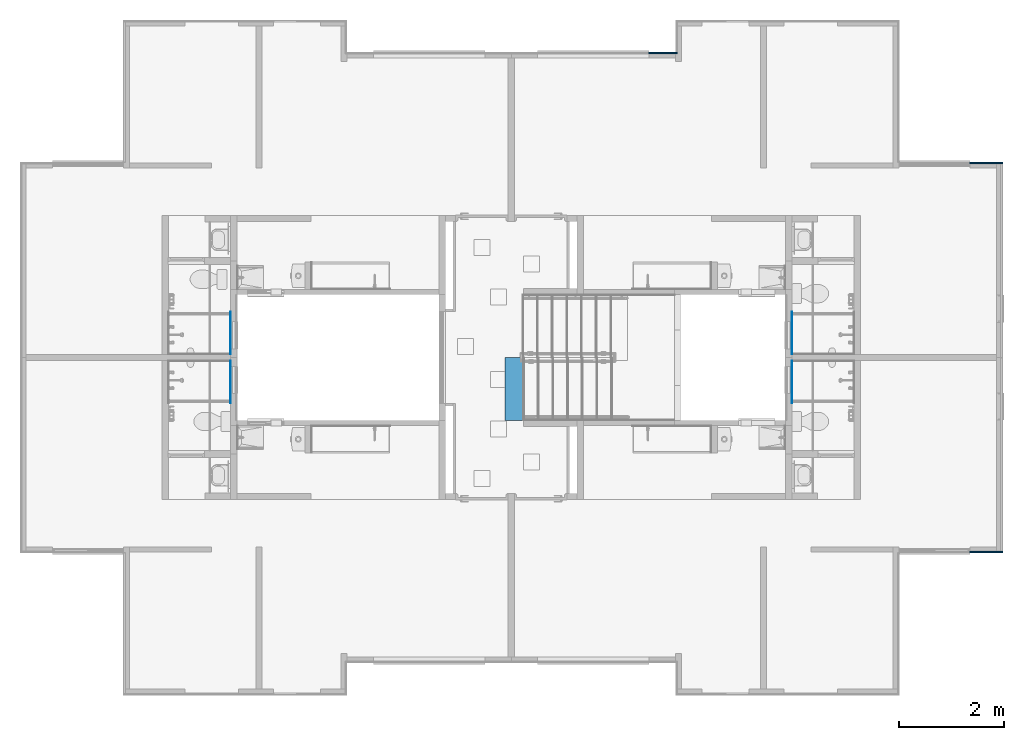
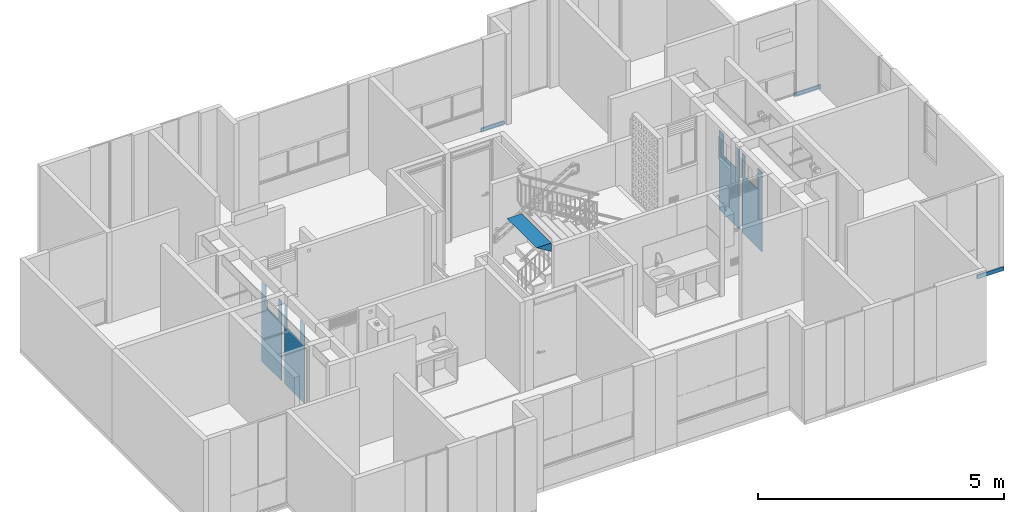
# One storey, part 28 of 48: 7 walls, 1 stair, 4 openings.
"""IFC4 building model written with IfcOpenShell, lengths in metres."""

from ifc_helpers import new_model, entity, si_unit, converted_unit, derived_unit, direction, frame, origin, place, context, subcontext, project, spatial, indexed_curve, outline, extrude, polygons, material, type_object, element, save


model = new_model("IFC4")

# Units and contexts
model_context = context("Model", 3, precision=1e-05, world=origin(), true_north=direction((6.123031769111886e-17, 1.0)))
body_context = subcontext(model_context, "Body", "Model", "MODEL_VIEW")
ifc_project = project(units=[si_unit("LENGTHUNIT", "METRE"), si_unit("AREAUNIT", "SQUARE_METRE"), si_unit("VOLUMEUNIT", "CUBIC_METRE"), converted_unit("PLANEANGLEUNIT", "DEGREE", entity("IfcRatioMeasure", 0.017453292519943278), si_unit("PLANEANGLEUNIT", "RADIAN"), dimensions=[0, 0, 0, 0, 0, 0, 0]), si_unit("MASSUNIT", "GRAM", prefix="KILO"), derived_unit("MASSDENSITYUNIT", [(si_unit("MASSUNIT", "GRAM", prefix="KILO"), 1), (si_unit("LENGTHUNIT", "METRE"), -3)]), derived_unit("IONCONCENTRATIONUNIT", [(si_unit("MASSUNIT", "GRAM", prefix="KILO"), 1), (si_unit("LENGTHUNIT", "METRE"), -3)]), derived_unit("MOMENTOFINERTIAUNIT", [(si_unit("LENGTHUNIT", "METRE"), 4)]), si_unit("TIMEUNIT", "SECOND"), si_unit("FREQUENCYUNIT", "HERTZ"), si_unit("THERMODYNAMICTEMPERATUREUNIT", "DEGREE_CELSIUS"), derived_unit("THERMALTRANSMITTANCEUNIT", [(si_unit("MASSUNIT", "GRAM", prefix="KILO"), 1), (si_unit("THERMODYNAMICTEMPERATUREUNIT", "KELVIN"), -1), (si_unit("TIMEUNIT", "SECOND"), -3)]), derived_unit("THERMALCONDUCTANCEUNIT", [(si_unit("MASSUNIT", "GRAM", prefix="KILO"), 1), (si_unit("THERMODYNAMICTEMPERATUREUNIT", "KELVIN"), -1), (si_unit("TIMEUNIT", "SECOND"), -3), (si_unit("LENGTHUNIT", "METRE"), 1)]), derived_unit("VOLUMETRICFLOWRATEUNIT", [(si_unit("LENGTHUNIT", "METRE"), 3), (si_unit("TIMEUNIT", "SECOND"), -1)]), derived_unit("MASSFLOWRATEUNIT", [(si_unit("MASSUNIT", "GRAM", prefix="KILO"), 1), (si_unit("TIMEUNIT", "SECOND"), -1)]), derived_unit("ROTATIONALFREQUENCYUNIT", [(si_unit("TIMEUNIT", "SECOND"), -1)]), si_unit("ELECTRICCURRENTUNIT", "AMPERE"), si_unit("ELECTRICVOLTAGEUNIT", "VOLT"), si_unit("POWERUNIT", "WATT"), si_unit("FORCEUNIT", "NEWTON", prefix="KILO"), si_unit("ILLUMINANCEUNIT", "LUX"), si_unit("LUMINOUSFLUXUNIT", "LUMEN"), si_unit("LUMINOUSINTENSITYUNIT", "CANDELA"), derived_unit("USERDEFINED", [(si_unit("MASSUNIT", "GRAM", prefix="KILO"), -1), (si_unit("LENGTHUNIT", "METRE"), -2), (si_unit("TIMEUNIT", "SECOND"), 3), (si_unit("LUMINOUSFLUXUNIT", "LUMEN"), 1)]), derived_unit("USERDEFINED", [(si_unit("MASSUNIT", "GRAM", prefix="KILO"), 1), (si_unit("TIMEUNIT", "SECOND"), -3), (si_unit("LENGTHUNIT", "METRE"), 3), (si_unit("ELECTRICCURRENTUNIT", "AMPERE"), -2)]), derived_unit("SOUNDPOWERUNIT", [(si_unit("MASSUNIT", "GRAM", prefix="KILO"), 1), (si_unit("TIMEUNIT", "SECOND"), -3), (si_unit("LENGTHUNIT", "METRE"), 2)]), derived_unit("SOUNDPRESSUREUNIT", [(si_unit("MASSUNIT", "GRAM", prefix="KILO"), 1), (si_unit("LENGTHUNIT", "METRE"), -1), (si_unit("TIMEUNIT", "SECOND"), -2)]), derived_unit("LINEARVELOCITYUNIT", [(si_unit("LENGTHUNIT", "METRE"), 1), (si_unit("TIMEUNIT", "SECOND"), -1)]), si_unit("PRESSUREUNIT", "PASCAL"), derived_unit("USERDEFINED", [(si_unit("MASSUNIT", "GRAM", prefix="KILO"), 1), (si_unit("LENGTHUNIT", "METRE"), -2), (si_unit("TIMEUNIT", "SECOND"), -2)]), derived_unit("LINEARFORCEUNIT", [(si_unit("MASSUNIT", "GRAM", prefix="KILO"), 1), (si_unit("TIMEUNIT", "SECOND"), -2)]), derived_unit("PLANARFORCEUNIT", [(si_unit("MASSUNIT", "GRAM", prefix="KILO"), 1), (si_unit("LENGTHUNIT", "METRE"), -1), (si_unit("TIMEUNIT", "SECOND"), -2)]), derived_unit("SPECIFICHEATCAPACITYUNIT", [(si_unit("THERMODYNAMICTEMPERATUREUNIT", "KELVIN"), -1), (si_unit("LENGTHUNIT", "METRE"), 2), (si_unit("TIMEUNIT", "SECOND"), -2)]), derived_unit("HEATINGVALUEUNIT", [(si_unit("LENGTHUNIT", "METRE"), 2), (si_unit("TIMEUNIT", "SECOND"), -2)]), derived_unit("VAPORPERMEABILITYUNIT", [(si_unit("LENGTHUNIT", "METRE"), -1), (si_unit("TIMEUNIT", "SECOND"), 1)]), derived_unit("DYNAMICVISCOSITYUNIT", [(si_unit("MASSUNIT", "GRAM", prefix="KILO"), 1), (si_unit("TIMEUNIT", "SECOND"), -1), (si_unit("LENGTHUNIT", "METRE"), -1)]), derived_unit("THERMALEXPANSIONCOEFFICIENTUNIT", [(si_unit("THERMODYNAMICTEMPERATUREUNIT", "KELVIN"), -1)]), derived_unit("MODULUSOFELASTICITYUNIT", [(si_unit("MASSUNIT", "GRAM", prefix="KILO"), 1), (si_unit("LENGTHUNIT", "METRE"), -1), (si_unit("TIMEUNIT", "SECOND"), -2)]), derived_unit("ISOTHERMALMOISTURECAPACITYUNIT", [(si_unit("LENGTHUNIT", "METRE"), 3), (si_unit("MASSUNIT", "GRAM", prefix="KILO"), -1)]), derived_unit("MOISTUREDIFFUSIVITYUNIT", [(si_unit("TIMEUNIT", "SECOND"), -1), (si_unit("LENGTHUNIT", "METRE"), 2)])], contexts=[model_context])

# Site, building, storey
site_placement = place(None, origin())
site = spatial("IfcSite", under=ifc_project, at=site_placement, Name="Default", CompositionType="ELEMENT")
building_placement = place(site_placement, origin())
building = spatial("IfcBuilding", under=site, at=building_placement, CompositionType="ELEMENT")
storey_placement = place(building_placement, frame((0.0, 0.0, 4.700000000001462)))
storey = spatial("IfcBuildingStorey", under=building, at=storey_placement, Name="Nivel 3", CompositionType="ELEMENT", Elevation=4.700000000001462)

# Wall, opening
ifc_material_1 = material(Name="Ceramica 0.25m x 0.35m", Category="Materials")
wall_type_1 = type_object("IfcWallType", Name="Basic Wall:C2010 - 0.25 x 0.35 - Enchape cerámico", PredefinedType="STANDARD")
wall_1_placement = place(storey_placement, frame((3.9574999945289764, -6.365000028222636, 0.029999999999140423), z_axis=(0.0, 0.0, 1.0), x_axis=(0.0, 1.0, 0.0)))
wall_1 = element("IfcWall", 1, at=wall_1_placement, inside=storey, type_object=wall_type_1, material=ifc_material_1, Name="Basic Wall:C2010 - 0.25 x 0.35 - Enchape cerámico", ObjectType="Basic Wall:C2010 - 0.25 x 0.35 - Enchape cerámico", PredefinedType="NOTDEFINED", context=body_context, shape_type="Tessellation", body=[
    polygons([(0.0, -0.0049999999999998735, 5.414335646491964e-16), (0.8099999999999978, -0.00499999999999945, 5.414335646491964e-16), (0.8099999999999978, -0.00499999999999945, 1.9700000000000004), (0.6309543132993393, -0.00500000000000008, 1.9700000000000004), (0.6309543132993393, -0.00500000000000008, 1.4500000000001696), (0.11095431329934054, -0.00499999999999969, 1.4500000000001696), (0.11095431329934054, -0.00499999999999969, 1.9700000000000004), (0.0, -0.0049999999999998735, 1.9700000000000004), (0.0, 0.005000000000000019, 5.414335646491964e-16), (0.0, 0.005000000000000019, 1.9700000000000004), (0.009999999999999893, 0.005000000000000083, 1.9699999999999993), (0.11095431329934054, 0.005000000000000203, 1.9700000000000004), (0.11095431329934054, 0.005000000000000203, 1.4500000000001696), (0.6309543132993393, 0.004999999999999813, 1.4500000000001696), (0.6309543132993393, 0.004999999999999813, 1.9700000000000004), (0.8099999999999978, 0.004999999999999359, 1.9700000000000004), (0.8099999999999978, 0.004999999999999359, 5.414335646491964e-16), (0.009999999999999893, 0.005000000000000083, 5.414335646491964e-16)], [[[1, 2, 3, 4, 5, 6, 7, 8]], [[9, 10, 11, 12, 13, 14, 15, 16, 17, 18]], [[2, 1, 9, 18, 17]], [[3, 2, 17, 16]], [[4, 3, 16, 15]], [[5, 4, 15, 14]], [[6, 5, 14, 13]], [[7, 6, 13, 12]], [[8, 7, 12, 11, 10]], [[1, 8, 10, 9]]], closed=True),
])
opening_1_placement = place(wall_1_placement, origin())
element("IfcOpeningElement", 2, at=opening_1_placement, cuts=wall_1, Name="Basic Wall:C2010 - 0.25 x 0.35 - Enchape cerámico", PredefinedType="OPENING", context=body_context, shape_type="SweptSolid", body=[
    extrude(outline(indexed_curve([(-0.2599999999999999, -0.25999999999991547), (0.25999999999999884, -0.25999999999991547), (0.2599999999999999, 0.25999999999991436), (-0.25999999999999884, 0.25999999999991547), (-0.2599999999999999, -0.25999999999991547)], self_intersect=False)), frame((0.3709543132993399, 0.004999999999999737, 1.7100000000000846), z_axis=(0.0, -1.0, 0.0), x_axis=(-1.0, 0.0, 0.0)), (0.0, 0.0, 1.0), 0.01),
])

wall_2_placement = place(storey_placement, frame((3.957499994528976, -6.485000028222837, 0.029999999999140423), z_axis=(0.0, 0.0, 1.0), x_axis=(0.0, -1.0, 0.0)))
wall_2 = element("IfcWall", 3, at=wall_2_placement, inside=storey, type_object=wall_type_1, material=ifc_material_1, Name="Basic Wall:C2010 - 0.25 x 0.35 - Enchape cerámico", ObjectType="Basic Wall:C2010 - 0.25 x 0.35 - Enchape cerámico", PredefinedType="NOTDEFINED", context=body_context, shape_type="Tessellation", body=[
    polygons([(0.0, -0.0049999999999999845, 5.414335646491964e-16), (0.009999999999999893, -0.004999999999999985, 0.0), (0.8099999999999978, -0.005000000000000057, 5.414335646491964e-16), (0.8099999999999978, -0.005000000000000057, 1.9700000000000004), (0.6309543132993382, -0.00500000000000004, 1.9700000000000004), (0.6309543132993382, -0.00500000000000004, 1.4500000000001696), (0.11095431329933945, -0.004999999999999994, 1.4500000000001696), (0.11095431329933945, -0.004999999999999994, 1.9700000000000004), (0.009999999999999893, -0.004999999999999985, 1.9699999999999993), (0.0, -0.0049999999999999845, 1.9700000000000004), (0.0, 0.004999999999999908, 5.414335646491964e-16), (0.0, 0.004999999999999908, 1.9700000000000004), (0.11095431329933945, 0.004999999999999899, 1.9700000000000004), (0.11095431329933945, 0.004999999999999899, 1.4500000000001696), (0.6309543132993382, 0.004999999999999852, 1.4500000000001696), (0.6309543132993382, 0.004999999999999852, 1.9700000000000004), (0.8099999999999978, 0.004999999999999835, 1.9700000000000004), (0.8099999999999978, 0.004999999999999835, 5.414335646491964e-16)], [[[1, 2, 3, 4, 5, 6, 7, 8, 9, 10]], [[11, 12, 13, 14, 15, 16, 17, 18]], [[3, 2, 1, 11, 18]], [[4, 3, 18, 17]], [[5, 4, 17, 16]], [[6, 5, 16, 15]], [[7, 6, 15, 14]], [[8, 7, 14, 13]], [[10, 9, 8, 13, 12]], [[1, 10, 12, 11]]], closed=True),
])
opening_2_placement = place(wall_2_placement, origin())
element("IfcOpeningElement", 4, at=opening_2_placement, cuts=wall_2, Name="Basic Wall:C2010 - 0.25 x 0.35 - Enchape cerámico", PredefinedType="OPENING", context=body_context, shape_type="SweptSolid", body=[
    extrude(outline(indexed_curve([(-0.2599999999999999, -0.25999999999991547), (0.25999999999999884, -0.25999999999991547), (0.2599999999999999, 0.25999999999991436), (-0.25999999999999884, 0.25999999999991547), (-0.2599999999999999, -0.25999999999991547)], self_intersect=False)), frame((0.3709543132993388, 0.004999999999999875, 1.7100000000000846), z_axis=(0.0, -1.0, 0.0), x_axis=(-1.0, 0.0, 0.0)), (0.0, 0.0, 1.0), 0.01),
])

wall_3_placement = place(storey_placement, frame((14.687500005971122, -6.3650000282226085, 0.029999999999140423), z_axis=(0.0, 0.0, 1.0), x_axis=(0.0, 1.0, 0.0)))
wall_3 = element("IfcWall", 5, at=wall_3_placement, inside=storey, type_object=wall_type_1, material=ifc_material_1, Name="Basic Wall:C2010 - 0.25 x 0.35 - Enchape cerámico", ObjectType="Basic Wall:C2010 - 0.25 x 0.35 - Enchape cerámico", PredefinedType="NOTDEFINED", context=body_context, shape_type="Tessellation", body=[
    polygons([(0.0, -0.004999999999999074, 5.414335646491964e-16), (0.009999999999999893, -0.004999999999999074, 5.414335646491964e-16), (0.8099999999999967, -0.004999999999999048, 5.414335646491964e-16), (0.8099999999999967, -0.004999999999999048, 1.9700000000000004), (0.6309543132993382, -0.004999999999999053, 1.9700000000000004), (0.6309543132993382, -0.004999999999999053, 1.4500000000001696), (0.11095431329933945, -0.00499999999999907, 1.4500000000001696), (0.11095431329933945, -0.00499999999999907, 1.9700000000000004), (0.009999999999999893, -0.004999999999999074, 1.9699999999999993), (0.0, -0.004999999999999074, 1.9700000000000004), (0.0, 0.004999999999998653, 5.414335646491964e-16), (0.0, 0.004999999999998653, 1.9700000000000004), (0.11095431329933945, 0.004999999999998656, 1.9700000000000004), (0.11095431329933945, 0.004999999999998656, 1.4500000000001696), (0.6309543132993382, 0.004999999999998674, 1.4500000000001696), (0.6309543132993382, 0.004999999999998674, 1.9700000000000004), (0.8099999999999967, 0.004999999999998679, 1.9700000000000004), (0.8099999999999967, 0.004999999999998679, 5.414335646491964e-16)], [[[1, 2, 3, 4, 5, 6, 7, 8, 9, 10]], [[11, 12, 13, 14, 15, 16, 17, 18]], [[3, 2, 1, 11, 18]], [[4, 3, 18, 17]], [[5, 4, 17, 16]], [[6, 5, 16, 15]], [[7, 6, 15, 14]], [[8, 7, 14, 13]], [[10, 9, 8, 13, 12]], [[1, 10, 12, 11]]], closed=True),
])
opening_3_placement = place(wall_3_placement, origin())
element("IfcOpeningElement", 6, at=opening_3_placement, cuts=wall_3, Name="Basic Wall:C2010 - 0.25 x 0.35 - Enchape cerámico", PredefinedType="OPENING", context=body_context, shape_type="SweptSolid", body=[
    extrude(outline(indexed_curve([(-0.2599999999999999, -0.25999999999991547), (0.25999999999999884, -0.25999999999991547), (0.2599999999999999, 0.25999999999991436), (-0.25999999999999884, 0.25999999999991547), (-0.2599999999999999, -0.25999999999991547)], self_intersect=False)), frame((0.3709543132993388, 0.00500000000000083, 1.7100000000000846), z_axis=(0.0, -1.0, 0.0), x_axis=(-1.0, 0.0, 0.0)), (0.0, 0.0, 1.0), 0.01),
])

wall_4_placement = place(storey_placement, frame((14.687500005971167, -6.485000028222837, 0.029999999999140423), z_axis=(0.0, 0.0, 1.0), x_axis=(0.0, -1.0, 0.0)))
wall_4 = element("IfcWall", 7, at=wall_4_placement, inside=storey, type_object=wall_type_1, material=ifc_material_1, Name="Basic Wall:C2010 - 0.25 x 0.35 - Enchape cerámico", ObjectType="Basic Wall:C2010 - 0.25 x 0.35 - Enchape cerámico", PredefinedType="NOTDEFINED", context=body_context, shape_type="Tessellation", body=[
    polygons([(0.0, -0.004999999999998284, 5.414335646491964e-16), (0.8099999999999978, -0.004999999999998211, 5.414335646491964e-16), (0.8099999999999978, -0.004999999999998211, 1.9700000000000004), (0.6309543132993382, -0.004999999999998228, 1.9700000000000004), (0.6309543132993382, -0.004999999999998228, 1.4500000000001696), (0.11095431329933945, -0.004999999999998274, 1.4500000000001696), (0.11095431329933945, -0.004999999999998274, 1.9700000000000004), (0.0, -0.004999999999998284, 1.9700000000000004), (0.0, 0.005000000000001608, 5.414335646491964e-16), (0.0, 0.005000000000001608, 1.9700000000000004), (0.009999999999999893, 0.00500000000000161, 1.9699999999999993), (0.11095431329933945, 0.005000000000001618, 1.9700000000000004), (0.11095431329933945, 0.005000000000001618, 1.4500000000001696), (0.6309543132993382, 0.005000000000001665, 1.4500000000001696), (0.6309543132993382, 0.005000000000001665, 1.9700000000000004), (0.8099999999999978, 0.005000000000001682, 1.9700000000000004), (0.8099999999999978, 0.005000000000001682, 5.414335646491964e-16), (0.009999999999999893, 0.00500000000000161, 5.414335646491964e-16)], [[[1, 2, 3, 4, 5, 6, 7, 8]], [[9, 10, 11, 12, 13, 14, 15, 16, 17, 18]], [[2, 1, 9, 18, 17]], [[3, 2, 17, 16]], [[4, 3, 16, 15]], [[5, 4, 15, 14]], [[6, 5, 14, 13]], [[7, 6, 13, 12]], [[8, 7, 12, 11, 10]], [[1, 8, 10, 9]]], closed=True),
])
opening_4_placement = place(wall_4_placement, origin())
element("IfcOpeningElement", 8, at=opening_4_placement, cuts=wall_4, Name="Basic Wall:C2010 - 0.25 x 0.35 - Enchape cerámico", PredefinedType="OPENING", context=body_context, shape_type="SweptSolid", body=[
    extrude(outline(indexed_curve([(-0.2599999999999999, -0.25999999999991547), (0.25999999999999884, -0.25999999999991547), (0.2599999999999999, 0.25999999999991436), (-0.25999999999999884, 0.25999999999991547), (-0.2599999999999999, -0.25999999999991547)], self_intersect=False)), frame((0.3709543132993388, 0.005000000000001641, 1.7100000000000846), z_axis=(0.0, -1.0, 0.0), x_axis=(-1.0, 0.0, 0.0)), (0.0, 0.0, 1.0), 0.01),
])

# Walls
ifc_material_2 = material(Name="LADRILLO CLARO", Category="Materials")
wall_type_2 = type_object("IfcWallType", Name="Basic Wall:B2010 - 0.03m - ME enchape  no estructural - Ladrillo", PredefinedType="STANDARD")
wall_5_placement = place(storey_placement, frame((18.702500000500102, -2.710000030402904, -0.1000000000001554), z_axis=(0.0, 0.0, 1.0), x_axis=(-1.0, 0.0, 0.0)))
element("IfcWall", 9, at=wall_5_placement, inside=storey, type_object=wall_type_2, material=ifc_material_2, Name="Basic Wall:B2010 - 0.03m - ME enchape  no estructural - Ladrillo", ObjectType="Basic Wall:B2010 - 0.03m - ME enchape  no estructural - Ladrillo", PredefinedType="NOTDEFINED", context=body_context, shape_type="SweptSolid", body=[
    extrude(outline(indexed_curve([(0.624999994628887, 0.014999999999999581), (3.050576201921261e-16, 0.014999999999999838), (-3.050576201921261e-16, -0.014999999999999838), (0.6249999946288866, -0.015000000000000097), (0.624999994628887, 0.014999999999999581)], self_intersect=False)), origin(), (0.0, 0.0, 1.0), 0.1),
])
wall_6_placement = place(storey_placement, frame((18.702500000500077, -10.140000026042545, -0.1000000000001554), z_axis=(0.0, 0.0, 1.0), x_axis=(-1.0, 0.0, 0.0)))
element("IfcWall", 10, at=wall_6_placement, inside=storey, type_object=wall_type_2, material=ifc_material_2, Name="Basic Wall:B2010 - 0.03m - ME enchape  no estructural - Ladrillo", ObjectType="Basic Wall:B2010 - 0.03m - ME enchape  no estructural - Ladrillo", PredefinedType="NOTDEFINED", context=body_context, shape_type="SweptSolid", body=[
    extrude(outline(indexed_curve([(0.6249999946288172, 0.015000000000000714), (-3.068945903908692e-16, 0.015000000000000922), (3.068945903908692e-16, -0.015000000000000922), (0.6249999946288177, -0.015000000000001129), (0.6249999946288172, 0.015000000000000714)], self_intersect=False)), origin(), (0.0, 0.0, 1.0), 0.1),
])
wall_7_placement = place(storey_placement, frame((11.952500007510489, -0.6100000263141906, -0.1000000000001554)))
element("IfcWall", 11, at=wall_7_placement, inside=storey, type_object=wall_type_2, material=ifc_material_2, Name="Basic Wall:B2010 - 0.03m - ME enchape  no estructural - Ladrillo", ObjectType="Basic Wall:B2010 - 0.03m - ME enchape  no estructural - Ladrillo", PredefinedType="NOTDEFINED", context=body_context, shape_type="SweptSolid", body=[
    extrude(outline(indexed_curve([(0.5400000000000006, 0.014999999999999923), (-4.746061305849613e-17, 0.014999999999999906), (4.7460613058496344e-17, -0.014999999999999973), (0.5400000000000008, -0.015000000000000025), (0.5400000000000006, 0.014999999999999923)], self_intersect=False)), origin(), (0.0, 0.0, 1.0), 0.1),
])

# Stair
ifc_material_3 = material(Name="Concreto (Aire)", Category="Materials")
stair_type = type_object("IfcStairType", Name="ESCALON3:ESCALON", PredefinedType="NOTDEFINED")
stair_placement = place(storey_placement, origin())
element("IfcStair", 12, at=stair_placement, inside=storey, type_object=stair_type, material=ifc_material_3, Name="ESCALON3:ESCALON", ObjectType="ESCALON3:ESCALON", PredefinedType="NOTDEFINED", context=body_context, shape_type="SweptSolid", body=[
    extrude(outline(indexed_curve([(-0.07012858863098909, -0.1155059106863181), (0.1402571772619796, -0.1155059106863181), (-0.07012858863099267, 0.2310118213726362), (-0.07012858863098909, -0.1155059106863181)], self_intersect=False)), frame((9.436994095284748, -7.625000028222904, 2.1798714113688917), z_axis=(0.0, 1.0, 0.0), x_axis=(0.0, 0.0, -1.0)), (0.0, 0.0, 1.0), 1.200000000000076),
])

save(model, "model.ifc")
